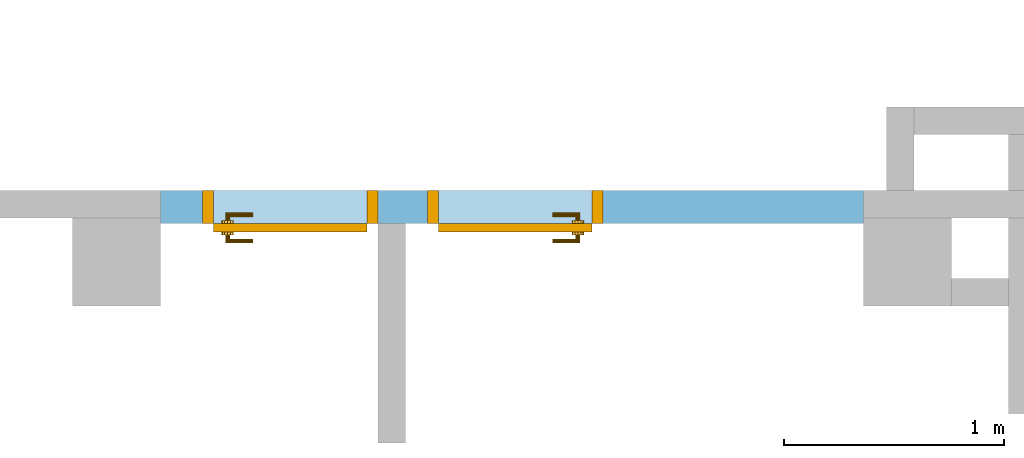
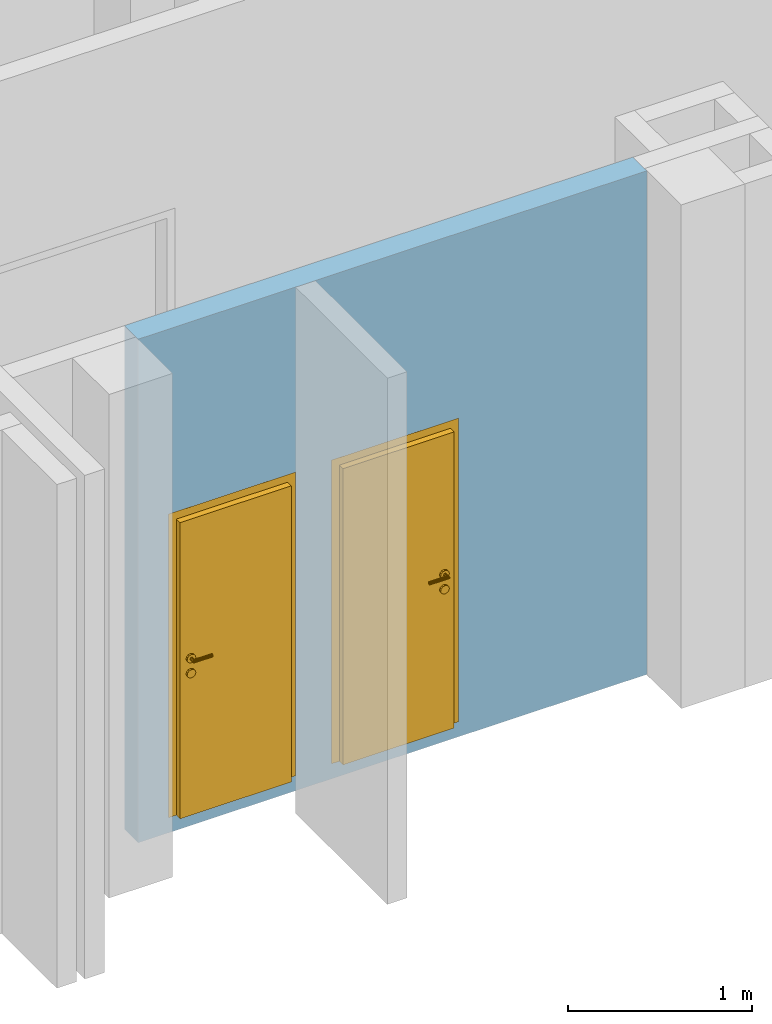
# One storey, part 29 of 37: 2 doors, 2 openings, plus 1 element that does not belong to this part.
"""IFC4 building model written with IfcOpenShell, lengths in metres."""

from ifc_helpers import new_model, entity, si_unit, converted_unit, derived_unit, frame, frame_2d, origin, origin_with_axes, place, context, subcontext, project, spatial, polyline, rectangle, outline, extrude, closed_shell, open_shell, surface_model, source, transform, mapped, material, layer, layer_set, layer_usage, type_object, element, fill, save


model = new_model("IFC4")

# Units and contexts
model_context = context("Model", 3, precision=1e-05, world=origin())
body_context = subcontext(model_context, "Body", "Model", "MODEL_VIEW")
ifc_project = project(units=[si_unit("LENGTHUNIT", "METRE"), si_unit("AREAUNIT", "SQUARE_METRE"), si_unit("VOLUMEUNIT", "CUBIC_METRE"), si_unit("MASSUNIT", "GRAM", prefix="KILO"), converted_unit("PLANEANGLEUNIT", "DEGREE", entity("IfcPlaneAngleMeasure", 0.0174532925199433), si_unit("PLANEANGLEUNIT", "RADIAN"), dimensions=[0, 0, 0, 0, 0, 0, 0]), derived_unit("THERMALTRANSMITTANCEUNIT", [(si_unit("POWERUNIT", "WATT"), 1), (si_unit("THERMODYNAMICTEMPERATUREUNIT", "KELVIN"), -1), (si_unit("LENGTHUNIT", "METRE"), -2)]), derived_unit("VOLUMETRICFLOWRATEUNIT", [(si_unit("LENGTHUNIT", "METRE"), 3), (converted_unit("TIMEUNIT", "hour", entity("IfcTimeMeasure", 3600.0), si_unit("TIMEUNIT", "SECOND"), dimensions=[0, 0, 1, 0, 0, 0, 0]), -1), (si_unit("LENGTHUNIT", "METRE"), -1)])], contexts=[model_context])

# Site, building, storey
site_placement = place(None, origin())
site = spatial("IfcSite", under=ifc_project, at=site_placement, Name="3. ASŘ", CompositionType="ELEMENT")
building_placement = place(site_placement, origin())
building = spatial("IfcBuilding", under=site, at=building_placement, Name="Pavilon B", CompositionType="ELEMENT")
storey_placement = place(building_placement, origin())
storey = spatial("IfcBuildingStorey", under=building, at=storey_placement, Name="Půdorys 1.NP", CompositionType="ELEMENT", Elevation=0.0)

# Wall, openings, doors
ifc_material = material(Name="YTONG 150")
ifc_layer = layer(ifc_material, 0.15)
ifc_layer_set = layer_set([ifc_layer])
ifc_layer_usage = layer_usage(ifc_layer_set, "AXIS2", "POSITIVE", 0.0)
wall_placement = place(storey_placement, frame((36.65, -27.275, -0.1), z_axis=(0.0, 0.0, 1.0), x_axis=(-1.0, 0.0, 0.0)))
wall = element("IfcWall", 1, at=wall_placement, inside=storey, material=ifc_layer_usage, Name="YTONG 150", context=body_context, shape_type="SweptSolid", body=[
    extrude(rectangle(XDim=3.2, YDim=0.15, at=frame_2d((1.6, 0.075), x_axis=(1.0, 0.0))), origin_with_axes(), (0.0, 0.0, 1.0), 3.35),
])
opening_1_placement = place(wall_placement, frame((2.21, 0.0, 0.1), z_axis=(0.0, 1.0, 0.0), x_axis=(0.0, 0.0, 1.0)))
opening_1 = element("IfcOpeningElement", 2, at=opening_1_placement, cuts=wall, Name="Dveřní otvor", ObjectType="Opening", context=body_context, shape_type="SweptSolid", body=[
    extrude(outline(polyline([(0.0, 0.8), (2.02, 0.8), (2.02, 0.0), (0.0, 0.0), (0.0, 0.8)])), origin_with_axes(), (0.0, 0.0, 1.0), 0.15),
])
opening_2_placement = place(wall_placement, frame((1.185, 0.0, 0.1), z_axis=(0.0, 1.0, 0.0), x_axis=(0.0, 0.0, 1.0)))
opening_2 = element("IfcOpeningElement", 3, at=opening_2_placement, cuts=wall, Name="Dveřní otvor", ObjectType="Opening", context=body_context, shape_type="SweptSolid", body=[
    extrude(outline(polyline([(0.0, 0.8), (2.02, 0.8), (2.02, 0.0), (0.0, 0.0), (0.0, 0.8)])), origin_with_axes(), (0.0, 0.0, 1.0), 0.15),
])
door_type_1 = type_object("IfcDoorType", Name="D101", OperationType="NOTDEFINED", ParameterTakesPrecedence=False, PredefinedType="DOOR")
shared_shape_1 = source(origin_with_axes(), body_context, "Body", "SurfaceModel", [
    surface_model("IfcShellBasedSurfaceModel", [(0.0, 0.15, 2.02), (0.0, 0.15, -9.18485099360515e-18), (0.05, 0.15, -9.18485099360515e-18), (0.05, 0.15, 2.02), (0.0, 0.0, 9.18485099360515e-18), (0.0, 2.55795384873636e-16, 2.02), (0.05, 2.55795384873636e-16, 2.02), (0.05, 0.0, 9.18485099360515e-18)], [closed_shell([[[0, 1, 2, 3]], [[4, 5, 6, 7]], [[1, 0, 5, 4]], [[2, 1, 4, 7]], [[3, 2, 7, 6]], [[0, 3, 6, 5]]], orient=[[False], [False], [False], [False], [False], [False]])]),
    surface_model("IfcShellBasedSurfaceModel", [(0.75, 0.15, 2.02), (0.75, 0.15, -9.18485099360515e-18), (0.8, 0.15, -9.18485099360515e-18), (0.8, 0.15, 2.02), (0.75, 0.0, 9.18485099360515e-18), (0.75, 2.55795384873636e-16, 2.02), (0.8, 2.55795384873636e-16, 2.02), (0.8, 0.0, 9.18485099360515e-18)], [closed_shell([[[0, 1, 2, 3]], [[4, 5, 6, 7]], [[1, 0, 5, 4]], [[2, 1, 4, 7]], [[3, 2, 7, 6]], [[0, 3, 6, 5]]], orient=[[False], [False], [False], [False], [False], [False]])]),
    surface_model("IfcShellBasedSurfaceModel", [(0.05, 0.15, 2.02), (0.05, 0.15, 1.97), (0.75, 0.15, 1.97), (0.75, 0.15, 2.02), (0.05, 2.27373675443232e-16, 1.97), (0.05, 2.27373675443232e-16, 2.02), (0.75, 2.27373675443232e-16, 2.02), (0.75, 2.27373675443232e-16, 1.97)], [closed_shell([[[0, 1, 2, 3]], [[4, 5, 6, 7]], [[1, 0, 5, 4]], [[2, 1, 4, 7]], [[3, 2, 7, 6]], [[0, 3, 6, 5]]], orient=[[False], [False], [False], [False], [False], [False]])]),
    surface_model("IfcShellBasedSurfaceModel", [(0.05, 0.19, 1.97), (0.05, 0.19, -1.40834381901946e-17), (0.75, 0.19, -1.40834381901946e-17), (0.75, 0.19, 1.97), (0.05, 0.15, -9.18485099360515e-18), (0.05, 0.15, 1.97), (0.75, 0.15, 1.97), (0.75, 0.15, -9.18485099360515e-18)], [closed_shell([[[0, 1, 2, 3]], [[4, 5, 6, 7]], [[1, 0, 5, 4]], [[2, 1, 4, 7]], [[3, 2, 7, 6]], [[0, 3, 6, 5]]], orient=[[False], [False], [False], [False], [False], [False]])]),
    surface_model("IfcShellBasedSurfaceModel", [(0.708815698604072, 0.15, 0.93625), (0.7125, 0.15, 0.95), (0.708815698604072, 0.15, 0.96375), (0.69875, 0.15, 0.973815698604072), (0.685, 0.15, 0.9775), (0.67125, 0.15, 0.973815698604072), (0.661184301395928, 0.15, 0.96375), (0.6575, 0.15, 0.95), (0.661184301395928, 0.15, 0.93625), (0.67125, 0.15, 0.926184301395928), (0.685, 0.15, 0.9225), (0.69875, 0.15, 0.926184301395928), (0.7125, 0.1375, 0.95), (0.708815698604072, 0.1375, 0.93625), (0.69875, 0.1375, 0.926184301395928), (0.685, 0.1375, 0.9225), (0.67125, 0.1375, 0.926184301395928), (0.661184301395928, 0.1375, 0.93625), (0.6575, 0.1375, 0.95), (0.661184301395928, 0.1375, 0.96375), (0.67125, 0.1375, 0.973815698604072), (0.685, 0.1375, 0.9775), (0.69875, 0.1375, 0.973815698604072), (0.708815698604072, 0.1375, 0.96375)], [closed_shell([[[0, 1, 2, 3, 4, 5, 6, 7, 8, 9, 10, 11]], [[12, 13, 14, 15, 16, 17, 18, 19, 20, 21, 22, 23]], [[1, 0, 13, 12]], [[2, 1, 12, 23]], [[3, 2, 23, 22]], [[4, 3, 22, 21]], [[5, 4, 21, 20]], [[6, 5, 20, 19]], [[7, 6, 19, 18]], [[8, 7, 18, 17]], [[9, 8, 17, 16]], [[10, 9, 16, 15]], [[11, 10, 15, 14]], [[0, 11, 14, 13]]], orient=[[False], [False], [False], [False], [False], [False], [False], [False], [False], [False], [False], [False], [False], [False]])]),
    surface_model("IfcShellBasedSurfaceModel", [(0.708815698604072, 0.15, 1.03625), (0.7125, 0.15, 1.05), (0.708815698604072, 0.15, 1.06375), (0.69875, 0.15, 1.07381569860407), (0.685, 0.15, 1.0775), (0.67125, 0.15, 1.07381569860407), (0.661184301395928, 0.15, 1.06375), (0.6575, 0.15, 1.05), (0.661184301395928, 0.15, 1.03625), (0.67125, 0.15, 1.02618430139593), (0.685, 0.15, 1.0225), (0.69875, 0.15, 1.02618430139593), (0.7125, 0.1375, 1.05), (0.708815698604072, 0.1375, 1.03625), (0.69875, 0.1375, 1.02618430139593), (0.685, 0.1375, 1.0225), (0.67125, 0.1375, 1.02618430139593), (0.661184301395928, 0.1375, 1.03625), (0.6575, 0.1375, 1.05), (0.661184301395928, 0.1375, 1.06375), (0.67125, 0.1375, 1.07381569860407), (0.685, 0.1375, 1.0775), (0.69875, 0.1375, 1.07381569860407), (0.708815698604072, 0.1375, 1.06375)], [closed_shell([[[0, 1, 2, 3, 4, 5, 6, 7, 8, 9, 10, 11]], [[12, 13, 14, 15, 16, 17, 18, 19, 20, 21, 22, 23]], [[1, 0, 13, 12]], [[2, 1, 12, 23]], [[3, 2, 23, 22]], [[4, 3, 22, 21]], [[5, 4, 21, 20]], [[6, 5, 20, 19]], [[7, 6, 19, 18]], [[8, 7, 18, 17]], [[9, 8, 17, 16]], [[10, 9, 16, 15]], [[11, 10, 15, 14]], [[0, 11, 14, 13]]], orient=[[False], [False], [False], [False], [False], [False], [False], [False], [False], [False], [False], [False], [False], [False]])]),
    surface_model("IfcShellBasedSurfaceModel", [(0.685, 0.15, 1.06), (0.68, 0.15, 1.05866025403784), (0.676339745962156, 0.15, 1.055), (0.675, 0.15, 1.05), (0.676339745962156, 0.15, 1.045), (0.68, 0.15, 1.04133974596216), (0.685, 0.15, 1.04), (0.69, 0.15, 1.04133974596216), (0.693660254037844, 0.15, 1.045), (0.695, 0.15, 1.05), (0.693660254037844, 0.15, 1.055), (0.69, 0.15, 1.05866025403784), (0.69, 0.105, 1.05866025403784), (0.685, 0.11, 1.06), (0.693660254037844, 0.101339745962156, 1.055), (0.695, 0.1, 1.05), (0.693660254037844, 0.101339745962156, 1.045), (0.69, 0.105, 1.04133974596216), (0.685, 0.11, 1.04), (0.68, 0.115, 1.04133974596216), (0.676339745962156, 0.118660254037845, 1.045), (0.675, 0.12, 1.05), (0.676339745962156, 0.118660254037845, 1.055), (0.68, 0.115, 1.05866025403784), (0.57, 0.105, 1.05866025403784), (0.57, 0.11, 1.06), (0.57, 0.101339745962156, 1.055), (0.57, 0.1, 1.05), (0.57, 0.101339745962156, 1.045), (0.57, 0.105, 1.04133974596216), (0.57, 0.11, 1.04), (0.57, 0.115, 1.04133974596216), (0.57, 0.118660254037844, 1.045), (0.57, 0.12, 1.05), (0.57, 0.118660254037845, 1.055), (0.57, 0.115, 1.05866025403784)], [open_shell([[[0, 1, 2, 3, 4, 5, 6, 7, 8, 9, 10, 11]], [[0, 11, 12, 13]], [[11, 10, 14, 12]], [[10, 9, 15, 14]], [[9, 8, 16, 15]], [[8, 7, 17, 16]], [[7, 6, 18, 17]], [[6, 5, 19, 18]], [[5, 4, 20, 19]], [[4, 3, 21, 20]], [[3, 2, 22, 21]], [[2, 1, 23, 22]], [[1, 0, 13, 23]], [[13, 12, 24, 25]], [[12, 14, 26, 24]], [[14, 15, 27, 26]], [[15, 16, 28, 27]], [[16, 17, 29, 28]], [[17, 18, 30, 29]], [[18, 19, 31, 30]], [[19, 20, 32, 31]], [[20, 21, 33, 32]], [[21, 22, 34, 33]], [[22, 23, 35, 34]], [[23, 13, 25, 35]]], orient=[[False], [False], [False], [False], [False], [False], [False], [False], [False], [False], [False], [False], [False], [False], [False], [False], [False], [False], [False], [False], [False], [False], [False], [False], [False]])]),
    surface_model("IfcShellBasedSurfaceModel", [(0.708815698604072, 0.19, 0.93625), (0.69875, 0.19, 0.926184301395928), (0.685, 0.19, 0.9225), (0.67125, 0.19, 0.926184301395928), (0.661184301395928, 0.19, 0.93625), (0.6575, 0.19, 0.95), (0.661184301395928, 0.19, 0.96375), (0.67125, 0.19, 0.973815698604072), (0.685, 0.19, 0.9775), (0.69875, 0.19, 0.973815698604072), (0.708815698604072, 0.19, 0.96375), (0.7125, 0.19, 0.95), (0.7125, 0.2025, 0.95), (0.708815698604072, 0.2025, 0.96375), (0.69875, 0.2025, 0.973815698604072), (0.685, 0.2025, 0.9775), (0.67125, 0.2025, 0.973815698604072), (0.661184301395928, 0.2025, 0.96375), (0.6575, 0.2025, 0.95), (0.661184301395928, 0.2025, 0.93625), (0.67125, 0.2025, 0.926184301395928), (0.685, 0.2025, 0.9225), (0.69875, 0.2025, 0.926184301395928), (0.708815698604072, 0.2025, 0.93625)], [closed_shell([[[0, 1, 2, 3, 4, 5, 6, 7, 8, 9, 10, 11]], [[12, 13, 14, 15, 16, 17, 18, 19, 20, 21, 22, 23]], [[11, 12, 23, 0]], [[10, 13, 12, 11]], [[9, 14, 13, 10]], [[8, 15, 14, 9]], [[7, 16, 15, 8]], [[6, 17, 16, 7]], [[5, 18, 17, 6]], [[4, 19, 18, 5]], [[3, 20, 19, 4]], [[2, 21, 20, 3]], [[1, 22, 21, 2]], [[0, 23, 22, 1]]], orient=[[False], [False], [False], [False], [False], [False], [False], [False], [False], [False], [False], [False], [False], [False]])]),
    surface_model("IfcShellBasedSurfaceModel", [(0.708815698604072, 0.19, 1.03625), (0.69875, 0.19, 1.02618430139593), (0.685, 0.19, 1.0225), (0.67125, 0.19, 1.02618430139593), (0.661184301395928, 0.19, 1.03625), (0.6575, 0.19, 1.05), (0.661184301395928, 0.19, 1.06375), (0.67125, 0.19, 1.07381569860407), (0.685, 0.19, 1.0775), (0.69875, 0.19, 1.07381569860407), (0.708815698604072, 0.19, 1.06375), (0.7125, 0.19, 1.05), (0.7125, 0.2025, 1.05), (0.708815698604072, 0.2025, 1.06375), (0.69875, 0.2025, 1.07381569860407), (0.685, 0.2025, 1.0775), (0.67125, 0.2025, 1.07381569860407), (0.661184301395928, 0.2025, 1.06375), (0.6575, 0.2025, 1.05), (0.661184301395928, 0.2025, 1.03625), (0.67125, 0.2025, 1.02618430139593), (0.685, 0.2025, 1.0225), (0.69875, 0.2025, 1.02618430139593), (0.708815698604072, 0.2025, 1.03625)], [closed_shell([[[0, 1, 2, 3, 4, 5, 6, 7, 8, 9, 10, 11]], [[12, 13, 14, 15, 16, 17, 18, 19, 20, 21, 22, 23]], [[11, 12, 23, 0]], [[10, 13, 12, 11]], [[9, 14, 13, 10]], [[8, 15, 14, 9]], [[7, 16, 15, 8]], [[6, 17, 16, 7]], [[5, 18, 17, 6]], [[4, 19, 18, 5]], [[3, 20, 19, 4]], [[2, 21, 20, 3]], [[1, 22, 21, 2]], [[0, 23, 22, 1]]], orient=[[False], [False], [False], [False], [False], [False], [False], [False], [False], [False], [False], [False], [False], [False]])]),
    surface_model("IfcShellBasedSurfaceModel", [(0.685, 0.19, 1.06), (0.69, 0.19, 1.05866025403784), (0.693660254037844, 0.19, 1.055), (0.695, 0.19, 1.05), (0.693660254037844, 0.19, 1.045), (0.69, 0.19, 1.04133974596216), (0.685, 0.19, 1.04), (0.68, 0.19, 1.04133974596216), (0.676339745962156, 0.19, 1.045), (0.675, 0.19, 1.05), (0.676339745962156, 0.19, 1.055), (0.68, 0.19, 1.05866025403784), (0.685, 0.23, 1.06), (0.69, 0.235, 1.05866025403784), (0.693660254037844, 0.238660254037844, 1.055), (0.695, 0.24, 1.05), (0.693660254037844, 0.238660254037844, 1.045), (0.69, 0.235, 1.04133974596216), (0.685, 0.23, 1.04), (0.68, 0.225, 1.04133974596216), (0.676339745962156, 0.221339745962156, 1.045), (0.675, 0.22, 1.05), (0.676339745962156, 0.221339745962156, 1.055), (0.68, 0.225, 1.05866025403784), (0.57, 0.23, 1.06), (0.57, 0.235, 1.05866025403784), (0.57, 0.238660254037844, 1.055), (0.57, 0.24, 1.05), (0.57, 0.238660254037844, 1.045), (0.57, 0.235, 1.04133974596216), (0.57, 0.23, 1.04), (0.57, 0.225, 1.04133974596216), (0.57, 0.221339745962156, 1.045), (0.57, 0.22, 1.05), (0.57, 0.221339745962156, 1.055), (0.57, 0.225, 1.05866025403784)], [open_shell([[[0, 1, 2, 3, 4, 5, 6, 7, 8, 9, 10, 11]], [[0, 12, 13, 1]], [[1, 13, 14, 2]], [[2, 14, 15, 3]], [[3, 15, 16, 4]], [[4, 16, 17, 5]], [[5, 17, 18, 6]], [[6, 18, 19, 7]], [[7, 19, 20, 8]], [[8, 20, 21, 9]], [[9, 21, 22, 10]], [[10, 22, 23, 11]], [[11, 23, 12, 0]], [[12, 24, 25, 13]], [[13, 25, 26, 14]], [[14, 26, 27, 15]], [[15, 27, 28, 16]], [[16, 28, 29, 17]], [[17, 29, 30, 18]], [[18, 30, 31, 19]], [[19, 31, 32, 20]], [[20, 32, 33, 21]], [[21, 33, 34, 22]], [[22, 34, 35, 23]], [[23, 35, 24, 12]]], orient=[[False], [False], [False], [False], [False], [False], [False], [False], [False], [False], [False], [False], [False], [False], [False], [False], [False], [False], [False], [False], [False], [False], [False], [False], [False]])]),
])
door_1_placement = place(opening_1_placement, frame((0.0, 0.0, 0.0), z_axis=(1.0, 0.0, 0.0), x_axis=(0.0, 1.0, -1.22464679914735e-16)))
door_1 = element("IfcDoor", 4, at=door_1_placement, inside=storey, type_object=door_type_1, Name="D101", OverallHeight=2.02, OverallWidth=0.8, context=body_context, shape_type="MappedRepresentation", body=[
    mapped(shared_shape_1, transform((0.0, 0.0, 0.0), x_axis=(1.0, 0.0, 0.0), y_axis=(0.0, 1.0, 0.0), z_axis=(0.0, 0.0, 1.0), scale=1.0)),
])
fill(opening_1, door_1)
door_type_2 = type_object("IfcDoorType", Name="D101", OperationType="NOTDEFINED", ParameterTakesPrecedence=False, PredefinedType="DOOR")
shared_shape_2 = source(origin_with_axes(), body_context, "Body", "SurfaceModel", [
    surface_model("IfcShellBasedSurfaceModel", [(0.0, 0.15, 2.02), (0.0, 0.15, -9.18485099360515e-18), (0.05, 0.15, -9.18485099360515e-18), (0.05, 0.15, 2.02), (0.0, 0.0, 9.18485099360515e-18), (0.0, 2.55795384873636e-16, 2.02), (0.05, 2.55795384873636e-16, 2.02), (0.05, 0.0, 9.18485099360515e-18)], [closed_shell([[[0, 1, 2, 3]], [[4, 5, 6, 7]], [[1, 0, 5, 4]], [[2, 1, 4, 7]], [[3, 2, 7, 6]], [[0, 3, 6, 5]]], orient=[[False], [False], [False], [False], [False], [False]])]),
    surface_model("IfcShellBasedSurfaceModel", [(0.75, 0.15, 2.02), (0.75, 0.15, -9.18485099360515e-18), (0.8, 0.15, -9.18485099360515e-18), (0.8, 0.15, 2.02), (0.75, 0.0, 9.18485099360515e-18), (0.75, 2.55795384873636e-16, 2.02), (0.8, 2.55795384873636e-16, 2.02), (0.8, 0.0, 9.18485099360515e-18)], [closed_shell([[[0, 1, 2, 3]], [[4, 5, 6, 7]], [[1, 0, 5, 4]], [[2, 1, 4, 7]], [[3, 2, 7, 6]], [[0, 3, 6, 5]]], orient=[[False], [False], [False], [False], [False], [False]])]),
    surface_model("IfcShellBasedSurfaceModel", [(0.05, 0.15, 2.02), (0.05, 0.15, 1.97), (0.75, 0.15, 1.97), (0.75, 0.15, 2.02), (0.05, 2.27373675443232e-16, 1.97), (0.05, 2.27373675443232e-16, 2.02), (0.75, 2.27373675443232e-16, 2.02), (0.75, 2.27373675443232e-16, 1.97)], [closed_shell([[[0, 1, 2, 3]], [[4, 5, 6, 7]], [[1, 0, 5, 4]], [[2, 1, 4, 7]], [[3, 2, 7, 6]], [[0, 3, 6, 5]]], orient=[[False], [False], [False], [False], [False], [False]])]),
    surface_model("IfcShellBasedSurfaceModel", [(0.05, 0.19, 1.97), (0.05, 0.19, -1.40834381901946e-17), (0.75, 0.19, -1.40834381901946e-17), (0.75, 0.19, 1.97), (0.05, 0.15, -9.18485099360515e-18), (0.05, 0.15, 1.97), (0.75, 0.15, 1.97), (0.75, 0.15, -9.18485099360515e-18)], [closed_shell([[[0, 1, 2, 3]], [[4, 5, 6, 7]], [[1, 0, 5, 4]], [[2, 1, 4, 7]], [[3, 2, 7, 6]], [[0, 3, 6, 5]]], orient=[[False], [False], [False], [False], [False], [False]])]),
    surface_model("IfcShellBasedSurfaceModel", [(0.708815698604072, 0.15, 0.93625), (0.7125, 0.15, 0.95), (0.708815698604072, 0.15, 0.96375), (0.69875, 0.15, 0.973815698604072), (0.685, 0.15, 0.9775), (0.67125, 0.15, 0.973815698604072), (0.661184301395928, 0.15, 0.96375), (0.6575, 0.15, 0.95), (0.661184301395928, 0.15, 0.93625), (0.67125, 0.15, 0.926184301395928), (0.685, 0.15, 0.9225), (0.69875, 0.15, 0.926184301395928), (0.7125, 0.1375, 0.95), (0.708815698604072, 0.1375, 0.93625), (0.69875, 0.1375, 0.926184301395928), (0.685, 0.1375, 0.9225), (0.67125, 0.1375, 0.926184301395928), (0.661184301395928, 0.1375, 0.93625), (0.6575, 0.1375, 0.95), (0.661184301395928, 0.1375, 0.96375), (0.67125, 0.1375, 0.973815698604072), (0.685, 0.1375, 0.9775), (0.69875, 0.1375, 0.973815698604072), (0.708815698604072, 0.1375, 0.96375)], [closed_shell([[[0, 1, 2, 3, 4, 5, 6, 7, 8, 9, 10, 11]], [[12, 13, 14, 15, 16, 17, 18, 19, 20, 21, 22, 23]], [[1, 0, 13, 12]], [[2, 1, 12, 23]], [[3, 2, 23, 22]], [[4, 3, 22, 21]], [[5, 4, 21, 20]], [[6, 5, 20, 19]], [[7, 6, 19, 18]], [[8, 7, 18, 17]], [[9, 8, 17, 16]], [[10, 9, 16, 15]], [[11, 10, 15, 14]], [[0, 11, 14, 13]]], orient=[[False], [False], [False], [False], [False], [False], [False], [False], [False], [False], [False], [False], [False], [False]])]),
    surface_model("IfcShellBasedSurfaceModel", [(0.708815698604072, 0.15, 1.03625), (0.7125, 0.15, 1.05), (0.708815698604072, 0.15, 1.06375), (0.69875, 0.15, 1.07381569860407), (0.685, 0.15, 1.0775), (0.67125, 0.15, 1.07381569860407), (0.661184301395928, 0.15, 1.06375), (0.6575, 0.15, 1.05), (0.661184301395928, 0.15, 1.03625), (0.67125, 0.15, 1.02618430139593), (0.685, 0.15, 1.0225), (0.69875, 0.15, 1.02618430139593), (0.7125, 0.1375, 1.05), (0.708815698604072, 0.1375, 1.03625), (0.69875, 0.1375, 1.02618430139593), (0.685, 0.1375, 1.0225), (0.67125, 0.1375, 1.02618430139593), (0.661184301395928, 0.1375, 1.03625), (0.6575, 0.1375, 1.05), (0.661184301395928, 0.1375, 1.06375), (0.67125, 0.1375, 1.07381569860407), (0.685, 0.1375, 1.0775), (0.69875, 0.1375, 1.07381569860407), (0.708815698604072, 0.1375, 1.06375)], [closed_shell([[[0, 1, 2, 3, 4, 5, 6, 7, 8, 9, 10, 11]], [[12, 13, 14, 15, 16, 17, 18, 19, 20, 21, 22, 23]], [[1, 0, 13, 12]], [[2, 1, 12, 23]], [[3, 2, 23, 22]], [[4, 3, 22, 21]], [[5, 4, 21, 20]], [[6, 5, 20, 19]], [[7, 6, 19, 18]], [[8, 7, 18, 17]], [[9, 8, 17, 16]], [[10, 9, 16, 15]], [[11, 10, 15, 14]], [[0, 11, 14, 13]]], orient=[[False], [False], [False], [False], [False], [False], [False], [False], [False], [False], [False], [False], [False], [False]])]),
    surface_model("IfcShellBasedSurfaceModel", [(0.685, 0.15, 1.06), (0.68, 0.15, 1.05866025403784), (0.676339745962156, 0.15, 1.055), (0.675, 0.15, 1.05), (0.676339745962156, 0.15, 1.045), (0.68, 0.15, 1.04133974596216), (0.685, 0.15, 1.04), (0.69, 0.15, 1.04133974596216), (0.693660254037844, 0.15, 1.045), (0.695, 0.15, 1.05), (0.693660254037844, 0.15, 1.055), (0.69, 0.15, 1.05866025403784), (0.69, 0.105, 1.05866025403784), (0.685, 0.11, 1.06), (0.693660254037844, 0.101339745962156, 1.055), (0.695, 0.1, 1.05), (0.693660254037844, 0.101339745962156, 1.045), (0.69, 0.105, 1.04133974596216), (0.685, 0.11, 1.04), (0.68, 0.115, 1.04133974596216), (0.676339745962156, 0.118660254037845, 1.045), (0.675, 0.12, 1.05), (0.676339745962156, 0.118660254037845, 1.055), (0.68, 0.115, 1.05866025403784), (0.57, 0.105, 1.05866025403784), (0.57, 0.11, 1.06), (0.57, 0.101339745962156, 1.055), (0.57, 0.1, 1.05), (0.57, 0.101339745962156, 1.045), (0.57, 0.105, 1.04133974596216), (0.57, 0.11, 1.04), (0.57, 0.115, 1.04133974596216), (0.57, 0.118660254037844, 1.045), (0.57, 0.12, 1.05), (0.57, 0.118660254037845, 1.055), (0.57, 0.115, 1.05866025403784)], [open_shell([[[0, 1, 2, 3, 4, 5, 6, 7, 8, 9, 10, 11]], [[0, 11, 12, 13]], [[11, 10, 14, 12]], [[10, 9, 15, 14]], [[9, 8, 16, 15]], [[8, 7, 17, 16]], [[7, 6, 18, 17]], [[6, 5, 19, 18]], [[5, 4, 20, 19]], [[4, 3, 21, 20]], [[3, 2, 22, 21]], [[2, 1, 23, 22]], [[1, 0, 13, 23]], [[13, 12, 24, 25]], [[12, 14, 26, 24]], [[14, 15, 27, 26]], [[15, 16, 28, 27]], [[16, 17, 29, 28]], [[17, 18, 30, 29]], [[18, 19, 31, 30]], [[19, 20, 32, 31]], [[20, 21, 33, 32]], [[21, 22, 34, 33]], [[22, 23, 35, 34]], [[23, 13, 25, 35]]], orient=[[False], [False], [False], [False], [False], [False], [False], [False], [False], [False], [False], [False], [False], [False], [False], [False], [False], [False], [False], [False], [False], [False], [False], [False], [False]])]),
    surface_model("IfcShellBasedSurfaceModel", [(0.708815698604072, 0.19, 0.93625), (0.69875, 0.19, 0.926184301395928), (0.685, 0.19, 0.9225), (0.67125, 0.19, 0.926184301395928), (0.661184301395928, 0.19, 0.93625), (0.6575, 0.19, 0.95), (0.661184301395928, 0.19, 0.96375), (0.67125, 0.19, 0.973815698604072), (0.685, 0.19, 0.9775), (0.69875, 0.19, 0.973815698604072), (0.708815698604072, 0.19, 0.96375), (0.7125, 0.19, 0.95), (0.7125, 0.2025, 0.95), (0.708815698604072, 0.2025, 0.96375), (0.69875, 0.2025, 0.973815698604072), (0.685, 0.2025, 0.9775), (0.67125, 0.2025, 0.973815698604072), (0.661184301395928, 0.2025, 0.96375), (0.6575, 0.2025, 0.95), (0.661184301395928, 0.2025, 0.93625), (0.67125, 0.2025, 0.926184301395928), (0.685, 0.2025, 0.9225), (0.69875, 0.2025, 0.926184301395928), (0.708815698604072, 0.2025, 0.93625)], [closed_shell([[[0, 1, 2, 3, 4, 5, 6, 7, 8, 9, 10, 11]], [[12, 13, 14, 15, 16, 17, 18, 19, 20, 21, 22, 23]], [[11, 12, 23, 0]], [[10, 13, 12, 11]], [[9, 14, 13, 10]], [[8, 15, 14, 9]], [[7, 16, 15, 8]], [[6, 17, 16, 7]], [[5, 18, 17, 6]], [[4, 19, 18, 5]], [[3, 20, 19, 4]], [[2, 21, 20, 3]], [[1, 22, 21, 2]], [[0, 23, 22, 1]]], orient=[[False], [False], [False], [False], [False], [False], [False], [False], [False], [False], [False], [False], [False], [False]])]),
    surface_model("IfcShellBasedSurfaceModel", [(0.708815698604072, 0.19, 1.03625), (0.69875, 0.19, 1.02618430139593), (0.685, 0.19, 1.0225), (0.67125, 0.19, 1.02618430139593), (0.661184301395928, 0.19, 1.03625), (0.6575, 0.19, 1.05), (0.661184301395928, 0.19, 1.06375), (0.67125, 0.19, 1.07381569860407), (0.685, 0.19, 1.0775), (0.69875, 0.19, 1.07381569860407), (0.708815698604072, 0.19, 1.06375), (0.7125, 0.19, 1.05), (0.7125, 0.2025, 1.05), (0.708815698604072, 0.2025, 1.06375), (0.69875, 0.2025, 1.07381569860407), (0.685, 0.2025, 1.0775), (0.67125, 0.2025, 1.07381569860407), (0.661184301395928, 0.2025, 1.06375), (0.6575, 0.2025, 1.05), (0.661184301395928, 0.2025, 1.03625), (0.67125, 0.2025, 1.02618430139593), (0.685, 0.2025, 1.0225), (0.69875, 0.2025, 1.02618430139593), (0.708815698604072, 0.2025, 1.03625)], [closed_shell([[[0, 1, 2, 3, 4, 5, 6, 7, 8, 9, 10, 11]], [[12, 13, 14, 15, 16, 17, 18, 19, 20, 21, 22, 23]], [[11, 12, 23, 0]], [[10, 13, 12, 11]], [[9, 14, 13, 10]], [[8, 15, 14, 9]], [[7, 16, 15, 8]], [[6, 17, 16, 7]], [[5, 18, 17, 6]], [[4, 19, 18, 5]], [[3, 20, 19, 4]], [[2, 21, 20, 3]], [[1, 22, 21, 2]], [[0, 23, 22, 1]]], orient=[[False], [False], [False], [False], [False], [False], [False], [False], [False], [False], [False], [False], [False], [False]])]),
    surface_model("IfcShellBasedSurfaceModel", [(0.685, 0.19, 1.06), (0.69, 0.19, 1.05866025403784), (0.693660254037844, 0.19, 1.055), (0.695, 0.19, 1.05), (0.693660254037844, 0.19, 1.045), (0.69, 0.19, 1.04133974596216), (0.685, 0.19, 1.04), (0.68, 0.19, 1.04133974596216), (0.676339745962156, 0.19, 1.045), (0.675, 0.19, 1.05), (0.676339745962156, 0.19, 1.055), (0.68, 0.19, 1.05866025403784), (0.685, 0.23, 1.06), (0.69, 0.235, 1.05866025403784), (0.693660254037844, 0.238660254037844, 1.055), (0.695, 0.24, 1.05), (0.693660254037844, 0.238660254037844, 1.045), (0.69, 0.235, 1.04133974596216), (0.685, 0.23, 1.04), (0.68, 0.225, 1.04133974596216), (0.676339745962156, 0.221339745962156, 1.045), (0.675, 0.22, 1.05), (0.676339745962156, 0.221339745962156, 1.055), (0.68, 0.225, 1.05866025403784), (0.57, 0.23, 1.06), (0.57, 0.235, 1.05866025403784), (0.57, 0.238660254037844, 1.055), (0.57, 0.24, 1.05), (0.57, 0.238660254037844, 1.045), (0.57, 0.235, 1.04133974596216), (0.57, 0.23, 1.04), (0.57, 0.225, 1.04133974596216), (0.57, 0.221339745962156, 1.045), (0.57, 0.22, 1.05), (0.57, 0.221339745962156, 1.055), (0.57, 0.225, 1.05866025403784)], [open_shell([[[0, 1, 2, 3, 4, 5, 6, 7, 8, 9, 10, 11]], [[0, 12, 13, 1]], [[1, 13, 14, 2]], [[2, 14, 15, 3]], [[3, 15, 16, 4]], [[4, 16, 17, 5]], [[5, 17, 18, 6]], [[6, 18, 19, 7]], [[7, 19, 20, 8]], [[8, 20, 21, 9]], [[9, 21, 22, 10]], [[10, 22, 23, 11]], [[11, 23, 12, 0]], [[12, 24, 25, 13]], [[13, 25, 26, 14]], [[14, 26, 27, 15]], [[15, 27, 28, 16]], [[16, 28, 29, 17]], [[17, 29, 30, 18]], [[18, 30, 31, 19]], [[19, 31, 32, 20]], [[20, 32, 33, 21]], [[21, 33, 34, 22]], [[22, 34, 35, 23]], [[23, 35, 24, 12]]], orient=[[False], [False], [False], [False], [False], [False], [False], [False], [False], [False], [False], [False], [False], [False], [False], [False], [False], [False], [False], [False], [False], [False], [False], [False], [False]])]),
])
door_2_placement = place(opening_2_placement, frame((0.0, 0.8, 0.0), z_axis=(1.0, 0.0, 0.0), x_axis=(0.0, -1.0, 1.22464679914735e-16)))
door_2 = element("IfcDoor", 5, at=door_2_placement, inside=storey, type_object=door_type_2, Name="D101", OverallHeight=2.02, OverallWidth=0.8, context=body_context, shape_type="MappedRepresentation", body=[
    mapped(shared_shape_2, transform((0.0, 0.0, 0.0), x_axis=(1.0, 0.0, 0.0), y_axis=(0.0, -1.0, 0.0), z_axis=(0.0, 0.0, 1.0), scale=1.0)),
])
fill(opening_2, door_2)

save(model, "model.ifc")
